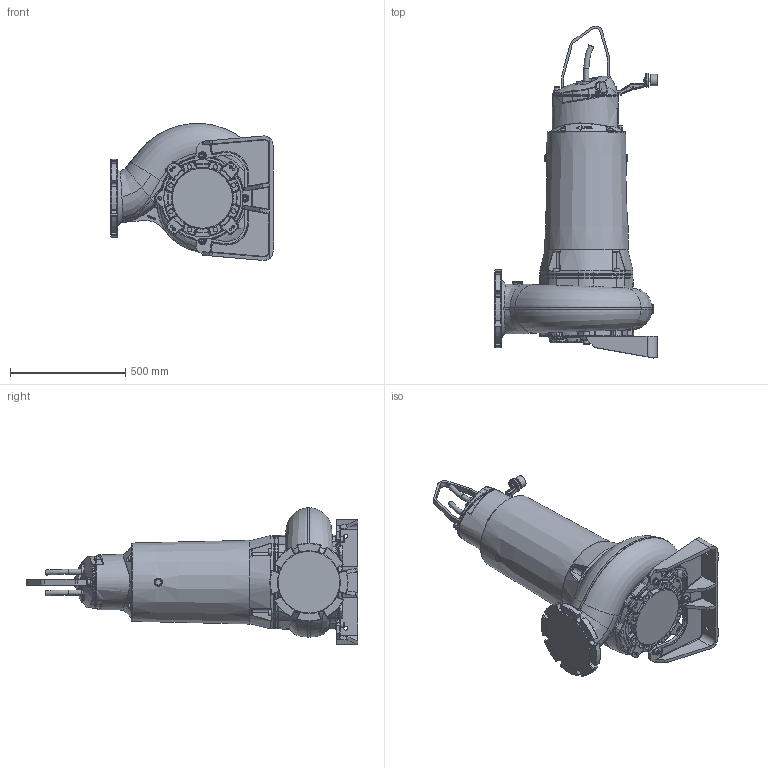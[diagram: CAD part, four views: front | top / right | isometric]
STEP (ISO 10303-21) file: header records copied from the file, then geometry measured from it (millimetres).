
FILE_DESCRIPTION (( 'STEP AP203' ), '1' );
FILE_NAME ('XFP201G-CB2_PE3A_Dry_Horizontal-.step', '2023-04-18T10:51:05', ( '' ), ( '' ), 'SwSTEP 2.0', 'SolidWorks 2017', '' );
FILE_SCHEMA (( 'CONFIG_CONTROL_DESIGN' ));
Products named in the file (2): XFP201G-CB2_PE3A_Dry_Horizontal-
Bounding box: 710 x 1442.2 x 594.84 mm (x, y, z)
Volume: 137388549.3 mm3; surface area: 2583359.3 mm2
Topology: 16 solids, 40 shells, 3585 faces, 8412 edges, 4803 vertices
Faces by surface type: cylinder 1132, bspline 1054, plane 794, torus 384, cone 123, sphere 98
Full cylindrical faces by diameter (mm): 6.8 x2, 8 x7, 8.5 x4, 9 x6, 10 x17, 10.2 x4, 11 x5, 12 x8, 13 x13, 14 x8, 15 x5, 16 x24, 17 x6, 17.5 x2, 18 x14, 20 x8, 22 x2, 24 x10, 26 x6, 40 x1, 50 x1, 60 x1, 268 x1, 335 x1
Entity records: 162821 total; most frequent: CARTESIAN_POINT 92311, ORIENTED_EDGE 15618, DIRECTION 13058, EDGE_CURVE 7809, AXIS2_PLACEMENT_3D 5278, VERTEX_POINT 4684, EDGE_LOOP 4019, FACE_OUTER_BOUND 3817
